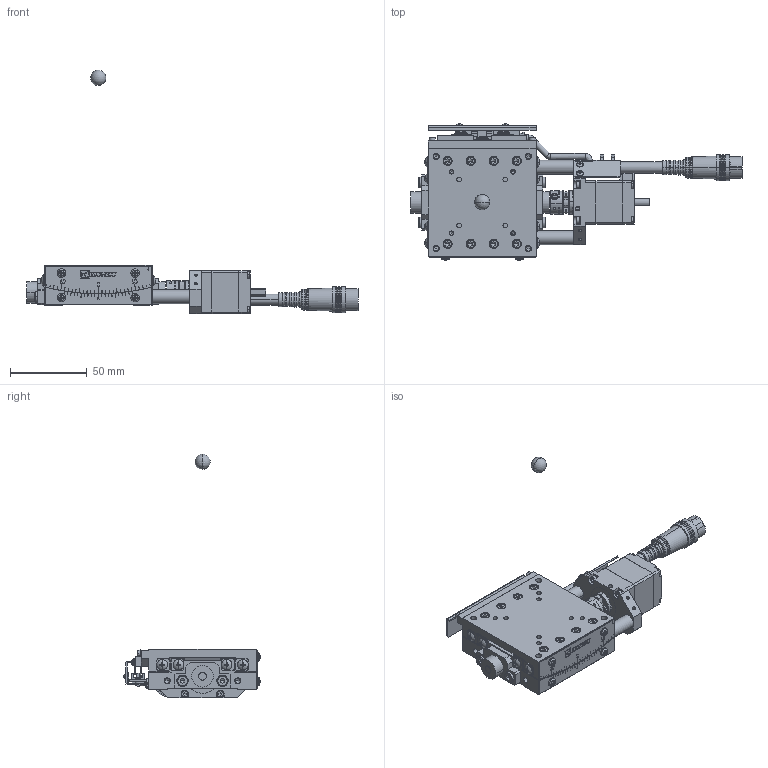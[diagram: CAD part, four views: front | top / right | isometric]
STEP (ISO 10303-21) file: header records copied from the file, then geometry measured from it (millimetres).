
FILE_DESCRIPTION( (''), '2;1');
FILE_NAME ('SA07A-R2B01.stp','2022-01-24T14:24:09',(''),(''),'spGate 17.5.5','','');
FILE_SCHEMA (('AUTOMOTIVE_DESIGN'));
Length unit declared in the file: millimetre
Products named in the file (8): Assembly; SA07A-R2B01-prt0; SA07A-R2B01-prt1; SA07A-R2B01-prt2; SA07A-R2B01-prt3; SA07A-R2B01-prt4; SA07A-R2B01-prt5; SA07A-R2B01-prt6
Assembly tree (7 placements, depth 2):
  Assembly
    SA07A-R2B01-prt0
    SA07A-R2B01-prt1
    SA07A-R2B01-prt2
    SA07A-R2B01-prt3
    SA07A-R2B01-prt4
    SA07A-R2B01-prt5
    SA07A-R2B01-prt6
Bounding box: 216 x 88.66 x 158.5 mm (x, y, z)
Volume: 183557.2 mm3; surface area: 64456.6 mm2
Topology: 7 solids, 7 shells, 2844 faces, 7249 edges, 4548 vertices
Faces by surface type: plane 1743, cylinder 689, bspline 364, sphere 48
Entity records: 145604 total; most frequent: CARTESIAN_POINT 20835, ORIENTED_EDGE 14310, DIRECTION 13563, COLOUR_RGB 10004, PRESENTATION_STYLE_ASSIGNMENT 10004, STYLED_ITEM 10004, EDGE_CURVE 7155, DRAUGHTING_PRE_DEFINED_CURVE_FONT 7155
